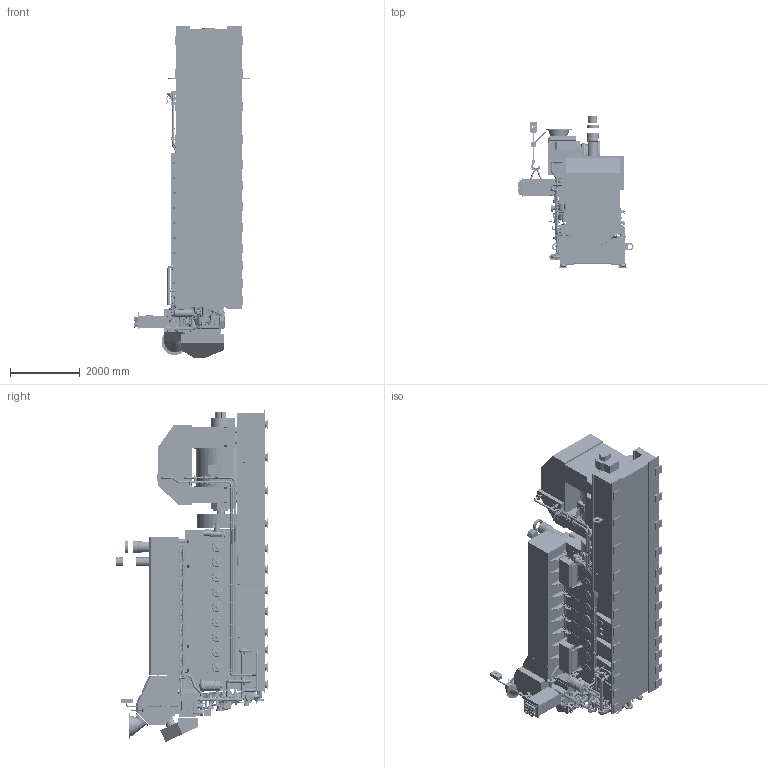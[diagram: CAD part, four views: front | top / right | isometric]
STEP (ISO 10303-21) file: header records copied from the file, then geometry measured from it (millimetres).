
FILE_DESCRIPTION((''),'2;1');
FILE_NAME('9M25E_GENSET_STP_ASM','2015-11-17T',('frickbd'),('Caterpillar Motoren GmbH & Co.KG'),'PRO/ENGINEER BY PARAMETRIC TECHNOLOGY CORPORATION, 2014200','PRO/ENGINEER BY PARAMETRIC TECHNOLOGY CORPORATION, 2014200','');
FILE_SCHEMA(('CONFIG_CONTROL_DESIGN'));
Products named in the file (7): 9M25E_GENSET_STP_REM_SPAC_P01; 9M25E_GENSET_STP_RESIL_MO_P01; 9M25E_GENSET_STP_ENGINE_P02; 9M25E_GENSET_STP_COMPLETE_P02; 9M25E_GENSET_STP_WITH_GEN_P02; 9M25E_GENSET_STP_STD_P02; 9M25E_GENSET_STP_ASM
Assembly tree (6 placements, depth 2):
  9M25E_GENSET_STP_ASM
    9M25E_GENSET_STP_REM_SPAC_P01
    9M25E_GENSET_STP_RESIL_MO_P01
    9M25E_GENSET_STP_ENGINE_P02
    9M25E_GENSET_STP_COMPLETE_P02
    9M25E_GENSET_STP_WITH_GEN_P02
    9M25E_GENSET_STP_STD_P02
Bounding box: 3298.28 x 4359 x 9516.95 mm (x, y, z)
Surface area: 343431916.1 mm2 (no closed solid volume)
Topology: 0 solids, 1558 shells, 8568 faces, 38410 edges, 30557 vertices
Faces by surface type: plane 4234, cylinder 3226, torus 504, bspline 338, cone 246, sphere 18, extrusion 2
Entity records: 506958 total; most frequent: CARTESIAN_POINT 152380, DIRECTION 66904, ORIENTED_EDGE 53137, EDGE_CURVE 38392, VERTEX_POINT 30561, AXIS2_PLACEMENT_3D 23808, VECTOR 19288, LINE 19286
